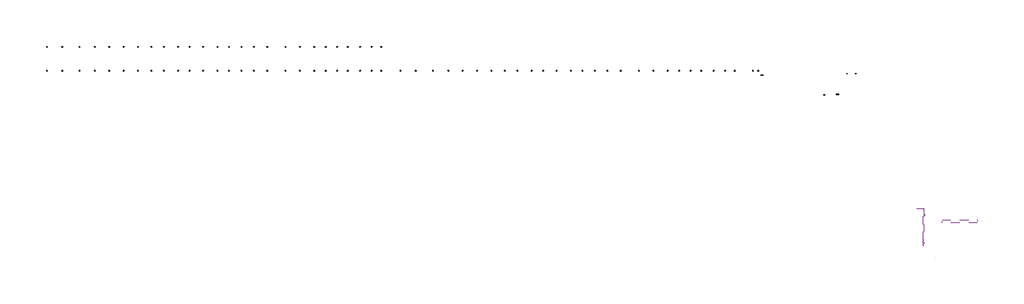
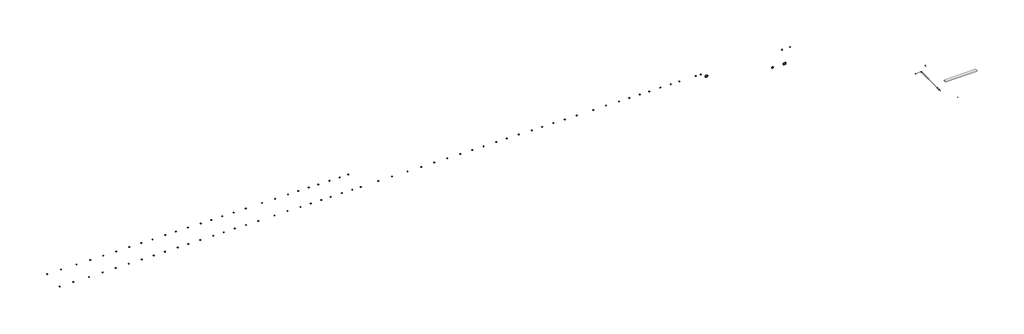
# One storey, incomplete: 86 alarms, 9 duct fittings, 7 duct segments, 1 cable carrier segment.
"""IFC4 building model written with IfcOpenShell, lengths in millimetres."""

from ifc_helpers import new_model, si_unit, frame, origin, place, context, project, spatial, polyline, outline, extrude, transform, mapped, element, save
from components import alarm_d060e439, alarm_7a4e420f, alarm_f305d9a8, alarm_74580a2a, alarm_8f189408, alarm_7e1c0db4, alarm_fe193bee, alarm_039fa333, alarm_379a8da4, alarm_1ad1898b, alarm_17b44d74, alarm_83ac3c54, alarm_bf9d1f58, duct_fitting_348c0719, duct_fitting_4cc1a555, duct_fitting_4e3f77ef, duct_fitting_c61af963, duct_fitting_fa248a7e

model = new_model("IFC4")

# Units and contexts
model_context = context("Model", 3, world=origin())
ifc_project = project(units=[si_unit("LENGTHUNIT", "METRE", prefix="MILLI")], contexts=[model_context])

# Site, building, storey
site = spatial("IfcSite", under=ifc_project)
building = spatial("IfcBuilding", under=site)
storey = spatial("IfcBuildingStorey", under=building, Name="Уровень 1", Elevation=0.0)

# Alarms
placement = place(None, origin())
alarm_shape = alarm_d060e439(model_context)
alarm_2_shape = alarm_7a4e420f(model_context)
alarm_3_shape = alarm_f305d9a8(model_context)
alarm_4_shape = alarm_74580a2a(model_context)
element("IfcAlarm", 1, ObjectType="БИС-Р_тип модель : БИС-Р", at=placement, inside=storey, context=model_context, shape_type="MappedRepresentation", body=[
    mapped(alarm_shape, transform((-11012.4807364, 14714.5739629, 0.0), x_axis=(1.0, 0.0, 0.0), y_axis=(0.0, 1.0, 0.0), z_axis=(0.0, 0.0, 1.0))),
    mapped(alarm_2_shape, transform((-11012.4807364, 14714.5739629, 0.0), x_axis=(1.0, 0.0, 0.0), y_axis=(0.0, 1.0, 0.0), z_axis=(0.0, 0.0, 1.0))),
    mapped(alarm_3_shape, transform((-11012.4807364, 14714.5739629, 0.0), x_axis=(1.0, 0.0, 0.0), y_axis=(0.0, 1.0, 0.0), z_axis=(0.0, 0.0, 1.0))),
    mapped(alarm_4_shape, transform((-11012.4807364, 14714.5739629, 0.0), x_axis=(1.0, 0.0, 0.0), y_axis=(0.0, 1.0, 0.0), z_axis=(0.0, 0.0, 1.0))),
])
alarm_5_shape = alarm_8f189408(model_context)
element("IfcAlarm", 2, ObjectType="АОПИштора_ тип модель : АОПИ штора", at=placement, inside=storey, context=model_context, shape_type="MappedRepresentation", body=[
    mapped(alarm_5_shape, transform((-2152.7435471, 14887.9617615, 0.0), x_axis=(1.0, 0.0, 0.0), y_axis=(0.0, 1.0, 0.0), z_axis=(0.0, 0.0, 1.0))),
])
alarm_6_shape = alarm_7e1c0db4(model_context)
element("IfcAlarm", 3, ObjectType="АОПИ_ тип модель : АОПИ", at=placement, inside=storey, context=model_context, shape_type="MappedRepresentation", body=[
    mapped(alarm_6_shape, transform((-1238.1159341, 14887.9617615, 0.0), x_axis=(1.0, 0.0, 0.0), y_axis=(0.0, 1.0, 0.0), z_axis=(0.0, 0.0, 1.0))),
])
alarm_7_shape = alarm_fe193bee(model_context)
element("IfcAlarm", 4, ObjectType="АЗДПИ АТИ_база извещателя_тип модель на грани : АЗДПИ АТИ_база извещателя_тип модель на грани", at=placement, inside=storey, context=model_context, shape_type="MappedRepresentation", body=[
    mapped(alarm_7_shape, transform((-11968.1978357, 15172.3724621, 0.0), x_axis=(1.0, 0.0, 0.0), y_axis=(0.0, -1.0, 0.0), z_axis=(0.0, 0.0, -1.0))),
])
element("IfcAlarm", 5, ObjectType="АЗДПИ АТИ_база извещателя_тип модель на грани : АЗДПИ АТИ_база извещателя_тип модель на грани", at=placement, inside=storey, context=model_context, shape_type="MappedRepresentation", body=[
    mapped(alarm_7_shape, transform((-13868.1978357, 15172.3724621, 0.0), x_axis=(1.0, 0.0, 0.0), y_axis=(0.0, -1.0, 0.0), z_axis=(0.0, 0.0, -1.0))),
])
element("IfcAlarm", 6, ObjectType="АЗДПИ АТИ_база извещателя_тип модель на грани : АЗДПИ АТИ_база извещателя_тип модель на грани", at=placement, inside=storey, context=model_context, shape_type="MappedRepresentation", body=[
    mapped(alarm_7_shape, transform((-14868.1978357, 15172.3724621, 0.0), x_axis=(1.0, 0.0, 0.0), y_axis=(0.0, -1.0, 0.0), z_axis=(0.0, 0.0, -1.0))),
])
element("IfcAlarm", 7, ObjectType="АЗДПИ АТИ_база извещателя_тип модель на грани : АЗДПИ АТИ_база извещателя_тип модель на грани", at=placement, inside=storey, context=model_context, shape_type="MappedRepresentation", body=[
    mapped(alarm_7_shape, transform((-16068.1978357, 15172.3724621, 0.0), x_axis=(1.0, 0.0, 0.0), y_axis=(0.0, -1.0, 0.0), z_axis=(0.0, 0.0, -1.0))),
])
element("IfcAlarm", 8, ObjectType="АЗДПИ АТИ_база извещателя_тип модель на грани : АЗДПИ АТИ_база извещателя_тип модель на грани", at=placement, inside=storey, context=model_context, shape_type="MappedRepresentation", body=[
    mapped(alarm_7_shape, transform((-17368.1978357, 15172.3724621, 0.0), x_axis=(1.0, 0.0, 0.0), y_axis=(0.0, -1.0, 0.0), z_axis=(0.0, 0.0, -1.0))),
])
element("IfcAlarm", 9, ObjectType="АЗДПИ АТИ_база извещателя_тип модель на грани : АЗДПИ АТИ_база извещателя_тип модель на грани", at=placement, inside=storey, context=model_context, shape_type="MappedRepresentation", body=[
    mapped(alarm_7_shape, transform((-18468.1978357, 15172.3724621, 0.0), x_axis=(1.0, 0.0, 0.0), y_axis=(0.0, -1.0, 0.0), z_axis=(0.0, 0.0, -1.0))),
])
element("IfcAlarm", 10, ObjectType="АЗДПИ АТИ_база извещателя_тип модель на грани : АЗДПИ АТИ_база извещателя_тип модель на грани", at=placement, inside=storey, context=model_context, shape_type="MappedRepresentation", body=[
    mapped(alarm_7_shape, transform((-19668.1978357, 15172.3724621, 0.0), x_axis=(1.0, 0.0, 0.0), y_axis=(0.0, -1.0, 0.0), z_axis=(0.0, 0.0, -1.0))),
])
element("IfcAlarm", 11, ObjectType="АЗДПИ АТИ_база извещателя_тип модель на грани : АЗДПИ АТИ_база извещателя_тип модель на грани", at=placement, inside=storey, context=model_context, shape_type="MappedRepresentation", body=[
    mapped(alarm_7_shape, transform((-20868.1978357, 15172.3724621, 0.0), x_axis=(1.0, 0.0, 0.0), y_axis=(0.0, -1.0, 0.0), z_axis=(0.0, 0.0, -1.0))),
])
element("IfcAlarm", 12, ObjectType="АЗДПИ АТИ_база извещателя_тип модель на грани : АЗДПИ АТИ_база извещателя_тип модель на грани", at=placement, inside=storey, context=model_context, shape_type="MappedRepresentation", body=[
    mapped(alarm_7_shape, transform((-22368.1978357, 15172.3724621, 0.0), x_axis=(1.0, 0.0, 0.0), y_axis=(0.0, -1.0, 0.0), z_axis=(0.0, 0.0, -1.0))),
])
element("IfcAlarm", 13, ObjectType="АЗДПИ АТИ_база извещателя_тип модель на грани : АЗДПИ АТИ_база извещателя_тип модель на грани", at=placement, inside=storey, context=model_context, shape_type="MappedRepresentation", body=[
    mapped(alarm_7_shape, transform((-23868.1978357, 15172.3724621, 0.0), x_axis=(1.0, 0.0, 0.0), y_axis=(0.0, -1.0, 0.0), z_axis=(0.0, 0.0, -1.0))),
])
element("IfcAlarm", 14, ObjectType="АЗДПИ АТИ_база извещателя_тип модель на грани : АЗДПИ АТИ_база извещателя_тип модель на грани", at=placement, inside=storey, context=model_context, shape_type="MappedRepresentation", body=[
    mapped(alarm_7_shape, transform((-25768.1978357, 15172.3724621, 0.0), x_axis=(1.0, 0.0, 0.0), y_axis=(0.0, -1.0, 0.0), z_axis=(0.0, 0.0, -1.0))),
])
element("IfcAlarm", 15, ObjectType="АЗДПИ АТИ_база извещателя_тип модель на грани : АЗДПИ АТИ_база извещателя_тип модель на грани", at=placement, inside=storey, context=model_context, shape_type="MappedRepresentation", body=[
    mapped(alarm_7_shape, transform((-27168.1978357, 15172.3724621, 0.0), x_axis=(1.0, 0.0, 0.0), y_axis=(0.0, -1.0, 0.0), z_axis=(0.0, 0.0, -1.0))),
])
element("IfcAlarm", 16, ObjectType="АЗДПИ АТИ_база извещателя_тип модель на грани : АЗДПИ АТИ_база извещателя_тип модель на грани", at=placement, inside=storey, context=model_context, shape_type="MappedRepresentation", body=[
    mapped(alarm_7_shape, transform((-28468.1978357, 15172.3724621, 0.0), x_axis=(1.0, 0.0, 0.0), y_axis=(0.0, -1.0, 0.0), z_axis=(0.0, 0.0, -1.0))),
])
element("IfcAlarm", 17, ObjectType="АЗДПИ АТИ_база извещателя_тип модель на грани : АЗДПИ АТИ_база извещателя_тип модель на грани", at=placement, inside=storey, context=model_context, shape_type="MappedRepresentation", body=[
    mapped(alarm_7_shape, transform((-29768.1978357, 15172.3724621, 0.0), x_axis=(1.0, 0.0, 0.0), y_axis=(0.0, -1.0, 0.0), z_axis=(0.0, 0.0, -1.0))),
])
element("IfcAlarm", 18, ObjectType="АЗДПИ АТИ_база извещателя_тип модель на грани : АЗДПИ АТИ_база извещателя_тип модель на грани", at=placement, inside=storey, context=model_context, shape_type="MappedRepresentation", body=[
    mapped(alarm_7_shape, transform((-30968.1978357, 15172.3724621, 0.0), x_axis=(1.0, 0.0, 0.0), y_axis=(0.0, -1.0, 0.0), z_axis=(0.0, 0.0, -1.0))),
])
element("IfcAlarm", 19, ObjectType="АЗДПИ АТИ_база извещателя_тип модель на грани : АЗДПИ АТИ_база извещателя_тип модель на грани", at=placement, inside=storey, context=model_context, shape_type="MappedRepresentation", body=[
    mapped(alarm_7_shape, transform((-32468.1978357, 15172.3724621, 0.0), x_axis=(1.0, 0.0, 0.0), y_axis=(0.0, -1.0, 0.0), z_axis=(0.0, 0.0, -1.0))),
])
element("IfcAlarm", 20, ObjectType="АЗДПИ АТИ_база извещателя_тип модель на грани : АЗДПИ АТИ_база извещателя_тип модель на грани", at=placement, inside=storey, context=model_context, shape_type="MappedRepresentation", body=[
    mapped(alarm_7_shape, transform((-33868.1978357, 15172.3724621, 0.0), x_axis=(1.0, 0.0, 0.0), y_axis=(0.0, -1.0, 0.0), z_axis=(0.0, 0.0, -1.0))),
])
element("IfcAlarm", 21, ObjectType="АЗДПИ АТИ_база извещателя_тип модель на грани : АЗДПИ АТИ_база извещателя_тип модель на грани", at=placement, inside=storey, context=model_context, shape_type="MappedRepresentation", body=[
    mapped(alarm_7_shape, transform((-35068.1978357, 15172.3724621, 0.0), x_axis=(1.0, 0.0, 0.0), y_axis=(0.0, -1.0, 0.0), z_axis=(0.0, 0.0, -1.0))),
])
element("IfcAlarm", 22, ObjectType="АЗДПИ АТИ_база извещателя_тип модель на грани : АЗДПИ АТИ_база извещателя_тип модель на грани", at=placement, inside=storey, context=model_context, shape_type="MappedRepresentation", body=[
    mapped(alarm_7_shape, transform((-36568.1978357, 15172.3724621, 0.0), x_axis=(1.0, 0.0, 0.0), y_axis=(0.0, -1.0, 0.0), z_axis=(0.0, 0.0, -1.0))),
])
element("IfcAlarm", 23, ObjectType="АЗДПИ АТИ_база извещателя_тип модель на грани : АЗДПИ АТИ_база извещателя_тип модель на грани", at=placement, inside=storey, context=model_context, shape_type="MappedRepresentation", body=[
    mapped(alarm_7_shape, transform((-37868.1978357, 15172.3724621, 0.0), x_axis=(1.0, 0.0, 0.0), y_axis=(0.0, -1.0, 0.0), z_axis=(0.0, 0.0, -1.0))),
])
element("IfcAlarm", 24, ObjectType="АЗДПИ АТИ_база извещателя_тип модель на грани : АЗДПИ АТИ_база извещателя_тип модель на грани", at=placement, inside=storey, context=model_context, shape_type="MappedRepresentation", body=[
    mapped(alarm_7_shape, transform((-39268.1978357, 15172.3724621, 0.0), x_axis=(1.0, 0.0, 0.0), y_axis=(0.0, -1.0, 0.0), z_axis=(0.0, 0.0, -1.0))),
])
element("IfcAlarm", 25, ObjectType="АЗДПИ АТИ_база извещателя_тип модель на грани : АЗДПИ АТИ_база извещателя_тип модель на грани", at=placement, inside=storey, context=model_context, shape_type="MappedRepresentation", body=[
    mapped(alarm_7_shape, transform((-40768.1978357, 15172.3724621, 0.0), x_axis=(1.0, 0.0, 0.0), y_axis=(0.0, -1.0, 0.0), z_axis=(0.0, 0.0, -1.0))),
])
element("IfcAlarm", 26, ObjectType="АЗДПИ АТИ_база извещателя_тип модель на грани : АЗДПИ АТИ_база извещателя_тип модель на грани", at=placement, inside=storey, context=model_context, shape_type="MappedRepresentation", body=[
    mapped(alarm_7_shape, transform((-42268.1978357, 15172.3724621, 0.0), x_axis=(1.0, 0.0, 0.0), y_axis=(0.0, -1.0, 0.0), z_axis=(0.0, 0.0, -1.0))),
])
element("IfcAlarm", 27, ObjectType="АЗДПИ АТИ_база извещателя_тип модель на грани : АЗДПИ АТИ_база извещателя_тип модель на грани", at=placement, inside=storey, context=model_context, shape_type="MappedRepresentation", body=[
    mapped(alarm_7_shape, transform((-43768.1978357, 15172.3724621, 0.0), x_axis=(1.0, 0.0, 0.0), y_axis=(0.0, -1.0, 0.0), z_axis=(0.0, 0.0, -1.0))),
])
element("IfcAlarm", 28, ObjectType="АЗДПИ АТИ_база извещателя_тип модель на грани : АЗДПИ АТИ_база извещателя_тип модель на грани", at=placement, inside=storey, context=model_context, shape_type="MappedRepresentation", body=[
    mapped(alarm_7_shape, transform((-45368.1978357, 15172.3724621, 0.0), x_axis=(1.0, 0.0, 0.0), y_axis=(0.0, -1.0, 0.0), z_axis=(0.0, 0.0, -1.0))),
])
element("IfcAlarm", 29, ObjectType="АЗДПИ АТИ_база извещателя_тип модель на грани : АЗДПИ АТИ_база извещателя_тип модель на грани", at=placement, inside=storey, context=model_context, shape_type="MappedRepresentation", body=[
    mapped(alarm_7_shape, transform((-47168.1978357, 15172.3724621, 0.0), x_axis=(1.0, 0.0, 0.0), y_axis=(0.0, -1.0, 0.0), z_axis=(0.0, 0.0, -1.0))),
])
element("IfcAlarm", 30, ObjectType="АЗДПИ АТИ_база извещателя_тип модель на грани : АЗДПИ АТИ_база извещателя_тип модель на грани", at=placement, inside=storey, context=model_context, shape_type="MappedRepresentation", body=[
    mapped(alarm_7_shape, transform((-48768.1978357, 15172.3724621, 0.0), x_axis=(1.0, 0.0, 0.0), y_axis=(0.0, -1.0, 0.0), z_axis=(0.0, 0.0, -1.0))),
])
element("IfcAlarm", 31, ObjectType="АЗДПИ АТИ_база извещателя_тип модель на грани : АЗДПИ АТИ_база извещателя_тип модель на грани", at=placement, inside=storey, context=model_context, shape_type="MappedRepresentation", body=[
    mapped(alarm_7_shape, transform((-50768.1978357, 15172.3724621, 0.0), x_axis=(1.0, 0.0, 0.0), y_axis=(0.0, -1.0, 0.0), z_axis=(0.0, 0.0, -1.0))),
])
element("IfcAlarm", 32, ObjectType="АЗДПИ АТИ_база извещателя_тип модель на грани : АЗДПИ АТИ_база извещателя_тип модель на грани", at=placement, inside=storey, context=model_context, shape_type="MappedRepresentation", body=[
    mapped(alarm_7_shape, transform((-51768.1978357, 15172.3724621, 0.0), x_axis=(1.0, 0.0, 0.0), y_axis=(0.0, -1.0, 0.0), z_axis=(0.0, 0.0, -1.0))),
])
element("IfcAlarm", 33, ObjectType="АЗДПИ АТИ_база извещателя_тип модель на грани : АЗДПИ АТИ_база извещателя_тип модель на грани", at=placement, inside=storey, context=model_context, shape_type="MappedRepresentation", body=[
    mapped(alarm_7_shape, transform((-52968.1978357, 15172.3724621, 0.0), x_axis=(1.0, 0.0, 0.0), y_axis=(0.0, -1.0, 0.0), z_axis=(0.0, 0.0, -1.0))),
])
element("IfcAlarm", 34, ObjectType="АЗДПИ АТИ_база извещателя_тип модель на грани : АЗДПИ АТИ_база извещателя_тип модель на грани", at=placement, inside=storey, context=model_context, shape_type="MappedRepresentation", body=[
    mapped(alarm_7_shape, transform((-54268.1978357, 15172.3724621, 0.0), x_axis=(1.0, 0.0, 0.0), y_axis=(0.0, -1.0, 0.0), z_axis=(0.0, 0.0, -1.0))),
])
element("IfcAlarm", 35, ObjectType="АЗДПИ АТИ_база извещателя_тип модель на грани : АЗДПИ АТИ_база извещателя_тип модель на грани", at=placement, inside=storey, context=model_context, shape_type="MappedRepresentation", body=[
    mapped(alarm_7_shape, transform((-55368.1978357, 15172.3724621, 0.0), x_axis=(1.0, 0.0, 0.0), y_axis=(0.0, -1.0, 0.0), z_axis=(0.0, 0.0, -1.0))),
])
element("IfcAlarm", 36, ObjectType="АЗДПИ АТИ_база извещателя_тип модель на грани : АЗДПИ АТИ_база извещателя_тип модель на грани", at=placement, inside=storey, context=model_context, shape_type="MappedRepresentation", body=[
    mapped(alarm_7_shape, transform((-56568.1978357, 15172.3724621, 0.0), x_axis=(1.0, 0.0, 0.0), y_axis=(0.0, -1.0, 0.0), z_axis=(0.0, 0.0, -1.0))),
])
element("IfcAlarm", 37, ObjectType="АЗДПИ АТИ_база извещателя_тип модель на грани : АЗДПИ АТИ_база извещателя_тип модель на грани", at=placement, inside=storey, context=model_context, shape_type="MappedRepresentation", body=[
    mapped(alarm_7_shape, transform((-57768.1978357, 15172.3724621, 0.0), x_axis=(1.0, 0.0, 0.0), y_axis=(0.0, -1.0, 0.0), z_axis=(0.0, 0.0, -1.0))),
])
element("IfcAlarm", 38, ObjectType="АЗДПИ АТИ_база извещателя_тип модель на грани : АЗДПИ АТИ_база извещателя_тип модель на грани", at=placement, inside=storey, context=model_context, shape_type="MappedRepresentation", body=[
    mapped(alarm_7_shape, transform((-59268.1978357, 15172.3724621, 0.0), x_axis=(1.0, 0.0, 0.0), y_axis=(0.0, -1.0, 0.0), z_axis=(0.0, 0.0, -1.0))),
])
element("IfcAlarm", 39, ObjectType="АЗДПИ АТИ_база извещателя_тип модель на грани : АЗДПИ АТИ_база извещателя_тип модель на грани", at=placement, inside=storey, context=model_context, shape_type="MappedRepresentation", body=[
    mapped(alarm_7_shape, transform((-60768.1978357, 15172.3724621, 0.0), x_axis=(1.0, 0.0, 0.0), y_axis=(0.0, -1.0, 0.0), z_axis=(0.0, 0.0, -1.0))),
])
element("IfcAlarm", 40, ObjectType="АЗДПИ АТИ_база извещателя_тип модель на грани : АЗДПИ АТИ_база извещателя_тип модель на грани", at=placement, inside=storey, context=model_context, shape_type="MappedRepresentation", body=[
    mapped(alarm_7_shape, transform((-62668.1978357, 15172.3724621, 0.0), x_axis=(1.0, 0.0, 0.0), y_axis=(0.0, -1.0, 0.0), z_axis=(0.0, 0.0, -1.0))),
])
element("IfcAlarm", 41, ObjectType="АЗДПИ АТИ_база извещателя_тип модель на грани : АЗДПИ АТИ_база извещателя_тип модель на грани", at=placement, inside=storey, context=model_context, shape_type="MappedRepresentation", body=[
    mapped(alarm_7_shape, transform((-64068.1978357, 15172.3724621, 0.0), x_axis=(1.0, 0.0, 0.0), y_axis=(0.0, -1.0, 0.0), z_axis=(0.0, 0.0, -1.0))),
])
element("IfcAlarm", 42, ObjectType="АЗДПИ АТИ_база извещателя_тип модель на грани : АЗДПИ АТИ_база извещателя_тип модель на грани", at=placement, inside=storey, context=model_context, shape_type="MappedRepresentation", body=[
    mapped(alarm_7_shape, transform((-65368.1978357, 15172.3724621, 0.0), x_axis=(1.0, 0.0, 0.0), y_axis=(0.0, -1.0, 0.0), z_axis=(0.0, 0.0, -1.0))),
])
element("IfcAlarm", 43, ObjectType="АЗДПИ АТИ_база извещателя_тип модель на грани : АЗДПИ АТИ_база извещателя_тип модель на грани", at=placement, inside=storey, context=model_context, shape_type="MappedRepresentation", body=[
    mapped(alarm_7_shape, transform((-66668.1978357, 15172.3724621, 0.0), x_axis=(1.0, 0.0, 0.0), y_axis=(0.0, -1.0, 0.0), z_axis=(0.0, 0.0, -1.0))),
])
element("IfcAlarm", 44, ObjectType="АЗДПИ АТИ_база извещателя_тип модель на грани : АЗДПИ АТИ_база извещателя_тип модель на грани", at=placement, inside=storey, context=model_context, shape_type="MappedRepresentation", body=[
    mapped(alarm_7_shape, transform((-67868.1978357, 15172.3724621, 0.0), x_axis=(1.0, 0.0, 0.0), y_axis=(0.0, -1.0, 0.0), z_axis=(0.0, 0.0, -1.0))),
])
element("IfcAlarm", 45, ObjectType="АЗДПИ АТИ_база извещателя_тип модель на грани : АЗДПИ АТИ_база извещателя_тип модель на грани", at=placement, inside=storey, context=model_context, shape_type="MappedRepresentation", body=[
    mapped(alarm_7_shape, transform((-69368.1978357, 15172.3724621, 0.0), x_axis=(1.0, 0.0, 0.0), y_axis=(0.0, -1.0, 0.0), z_axis=(0.0, 0.0, -1.0))),
])
element("IfcAlarm", 46, ObjectType="АЗДПИ АТИ_база извещателя_тип модель на грани : АЗДПИ АТИ_база извещателя_тип модель на грани", at=placement, inside=storey, context=model_context, shape_type="MappedRepresentation", body=[
    mapped(alarm_7_shape, transform((-70768.1978357, 15172.3724621, 0.0), x_axis=(1.0, 0.0, 0.0), y_axis=(0.0, -1.0, 0.0), z_axis=(0.0, 0.0, -1.0))),
])
element("IfcAlarm", 47, ObjectType="АЗДПИ АТИ_база извещателя_тип модель на грани : АЗДПИ АТИ_база извещателя_тип модель на грани", at=placement, inside=storey, context=model_context, shape_type="MappedRepresentation", body=[
    mapped(alarm_7_shape, transform((-71968.1978357, 15172.3724621, 0.0), x_axis=(1.0, 0.0, 0.0), y_axis=(0.0, -1.0, 0.0), z_axis=(0.0, 0.0, -1.0))),
])
element("IfcAlarm", 48, ObjectType="АЗДПИ АТИ_база извещателя_тип модель на грани : АЗДПИ АТИ_база извещателя_тип модель на грани", at=placement, inside=storey, context=model_context, shape_type="MappedRepresentation", body=[
    mapped(alarm_7_shape, transform((-73468.1978357, 15172.3724621, 0.0), x_axis=(1.0, 0.0, 0.0), y_axis=(0.0, -1.0, 0.0), z_axis=(0.0, 0.0, -1.0))),
])
element("IfcAlarm", 49, ObjectType="АЗДПИ АТИ_база извещателя_тип модель на грани : АЗДПИ АТИ_база извещателя_тип модель на грани", at=placement, inside=storey, context=model_context, shape_type="MappedRepresentation", body=[
    mapped(alarm_7_shape, transform((-74768.1978357, 15172.3724621, 0.0), x_axis=(1.0, 0.0, 0.0), y_axis=(0.0, -1.0, 0.0), z_axis=(0.0, 0.0, -1.0))),
])
element("IfcAlarm", 50, ObjectType="АЗДПИ АТИ_база извещателя_тип модель на грани : АЗДПИ АТИ_база извещателя_тип модель на грани", at=placement, inside=storey, context=model_context, shape_type="MappedRepresentation", body=[
    mapped(alarm_7_shape, transform((-76168.1978357, 15172.3724621, 0.0), x_axis=(1.0, 0.0, 0.0), y_axis=(0.0, -1.0, 0.0), z_axis=(0.0, 0.0, -1.0))),
])
element("IfcAlarm", 51, ObjectType="АЗДПИ АТИ_база извещателя_тип модель на грани : АЗДПИ АТИ_база извещателя_тип модель на грани", at=placement, inside=storey, context=model_context, shape_type="MappedRepresentation", body=[
    mapped(alarm_7_shape, transform((-77668.1978357, 15172.3724621, 0.0), x_axis=(1.0, 0.0, 0.0), y_axis=(0.0, -1.0, 0.0), z_axis=(0.0, 0.0, -1.0))),
])
element("IfcAlarm", 52, ObjectType="АЗДПИ АТИ_база извещателя_тип модель на грани : АЗДПИ АТИ_база извещателя_тип модель на грани", at=placement, inside=storey, context=model_context, shape_type="MappedRepresentation", body=[
    mapped(alarm_7_shape, transform((-79168.1978357, 15172.3724621, 0.0), x_axis=(1.0, 0.0, 0.0), y_axis=(0.0, -1.0, 0.0), z_axis=(0.0, 0.0, -1.0))),
])
element("IfcAlarm", 53, ObjectType="АЗДПИ АТИ_база извещателя_тип модель на грани : АЗДПИ АТИ_база извещателя_тип модель на грани", at=placement, inside=storey, context=model_context, shape_type="MappedRepresentation", body=[
    mapped(alarm_7_shape, transform((-80668.1978357, 15172.3724621, 0.0), x_axis=(1.0, 0.0, 0.0), y_axis=(0.0, -1.0, 0.0), z_axis=(0.0, 0.0, -1.0))),
])
element("IfcAlarm", 54, ObjectType="АЗДПИ АТИ_база извещателя_тип модель на грани : АЗДПИ АТИ_база извещателя_тип модель на грани", at=placement, inside=storey, context=model_context, shape_type="MappedRepresentation", body=[
    mapped(alarm_7_shape, transform((-82268.1978357, 15172.3724621, 0.0), x_axis=(1.0, 0.0, 0.0), y_axis=(0.0, -1.0, 0.0), z_axis=(0.0, 0.0, -1.0))),
])
element("IfcAlarm", 55, ObjectType="АЗДПИ АТИ_база извещателя_тип модель на грани : АЗДПИ АТИ_база извещателя_тип модель на грани", at=placement, inside=storey, context=model_context, shape_type="MappedRepresentation", body=[
    mapped(alarm_7_shape, transform((-84068.1978357, 15172.3724621, 0.0), x_axis=(1.0, 0.0, 0.0), y_axis=(0.0, -1.0, 0.0), z_axis=(0.0, 0.0, -1.0))),
])
element("IfcAlarm", 56, ObjectType="АЗДПИ АТИ_база извещателя_тип модель на грани : АЗДПИ АТИ_база извещателя_тип модель на грани", at=placement, inside=storey, context=model_context, shape_type="MappedRepresentation", body=[
    mapped(alarm_7_shape, transform((-85668.1978357, 15172.3724621, 0.0), x_axis=(1.0, 0.0, 0.0), y_axis=(0.0, -1.0, 0.0), z_axis=(0.0, 0.0, -1.0))),
])
element("IfcAlarm", 57, ObjectType="АЗДПИ АТИ_база извещателя_тип модель на грани : АЗДПИ АТИ_база извещателя_тип модель на грани", at=placement, inside=storey, context=model_context, shape_type="MappedRepresentation", body=[
    mapped(alarm_7_shape, transform((-50768.1978357, 17672.3724621, 0.0), x_axis=(1.0, 0.0, 0.0), y_axis=(0.0, -1.0, 0.0), z_axis=(0.0, 0.0, -1.0))),
])
element("IfcAlarm", 58, ObjectType="АЗДПИ АТИ_база извещателя_тип модель на грани : АЗДПИ АТИ_база извещателя_тип модель на грани", at=placement, inside=storey, context=model_context, shape_type="MappedRepresentation", body=[
    mapped(alarm_7_shape, transform((-51768.1978357, 17672.3724621, 0.0), x_axis=(1.0, 0.0, 0.0), y_axis=(0.0, -1.0, 0.0), z_axis=(0.0, 0.0, -1.0))),
])
element("IfcAlarm", 59, ObjectType="АЗДПИ АТИ_база извещателя_тип модель на грани : АЗДПИ АТИ_база извещателя_тип модель на грани", at=placement, inside=storey, context=model_context, shape_type="MappedRepresentation", body=[
    mapped(alarm_7_shape, transform((-52968.1978357, 17672.3724621, 0.0), x_axis=(1.0, 0.0, 0.0), y_axis=(0.0, -1.0, 0.0), z_axis=(0.0, 0.0, -1.0))),
])
element("IfcAlarm", 60, ObjectType="АЗДПИ АТИ_база извещателя_тип модель на грани : АЗДПИ АТИ_база извещателя_тип модель на грани", at=placement, inside=storey, context=model_context, shape_type="MappedRepresentation", body=[
    mapped(alarm_7_shape, transform((-54268.1978357, 17672.3724621, 0.0), x_axis=(1.0, 0.0, 0.0), y_axis=(0.0, -1.0, 0.0), z_axis=(0.0, 0.0, -1.0))),
])
element("IfcAlarm", 61, ObjectType="АЗДПИ АТИ_база извещателя_тип модель на грани : АЗДПИ АТИ_база извещателя_тип модель на грани", at=placement, inside=storey, context=model_context, shape_type="MappedRepresentation", body=[
    mapped(alarm_7_shape, transform((-55368.1978357, 17672.3724621, 0.0), x_axis=(1.0, 0.0, 0.0), y_axis=(0.0, -1.0, 0.0), z_axis=(0.0, 0.0, -1.0))),
])
element("IfcAlarm", 62, ObjectType="АЗДПИ АТИ_база извещателя_тип модель на грани : АЗДПИ АТИ_база извещателя_тип модель на грани", at=placement, inside=storey, context=model_context, shape_type="MappedRepresentation", body=[
    mapped(alarm_7_shape, transform((-56568.1978357, 17672.3724621, 0.0), x_axis=(1.0, 0.0, 0.0), y_axis=(0.0, -1.0, 0.0), z_axis=(0.0, 0.0, -1.0))),
])
element("IfcAlarm", 63, ObjectType="АЗДПИ АТИ_база извещателя_тип модель на грани : АЗДПИ АТИ_база извещателя_тип модель на грани", at=placement, inside=storey, context=model_context, shape_type="MappedRepresentation", body=[
    mapped(alarm_7_shape, transform((-57768.1978357, 17672.3724621, 0.0), x_axis=(1.0, 0.0, 0.0), y_axis=(0.0, -1.0, 0.0), z_axis=(0.0, 0.0, -1.0))),
])
element("IfcAlarm", 64, ObjectType="АЗДПИ АТИ_база извещателя_тип модель на грани : АЗДПИ АТИ_база извещателя_тип модель на грани", at=placement, inside=storey, context=model_context, shape_type="MappedRepresentation", body=[
    mapped(alarm_7_shape, transform((-59268.1978357, 17672.3724621, 0.0), x_axis=(1.0, 0.0, 0.0), y_axis=(0.0, -1.0, 0.0), z_axis=(0.0, 0.0, -1.0))),
])
element("IfcAlarm", 65, ObjectType="АЗДПИ АТИ_база извещателя_тип модель на грани : АЗДПИ АТИ_база извещателя_тип модель на грани", at=placement, inside=storey, context=model_context, shape_type="MappedRepresentation", body=[
    mapped(alarm_7_shape, transform((-60768.1978357, 17672.3724621, 0.0), x_axis=(1.0, 0.0, 0.0), y_axis=(0.0, -1.0, 0.0), z_axis=(0.0, 0.0, -1.0))),
])
element("IfcAlarm", 66, ObjectType="АЗДПИ АТИ_база извещателя_тип модель на грани : АЗДПИ АТИ_база извещателя_тип модель на грани", at=placement, inside=storey, context=model_context, shape_type="MappedRepresentation", body=[
    mapped(alarm_7_shape, transform((-62668.1978357, 17672.3724621, 0.0), x_axis=(1.0, 0.0, 0.0), y_axis=(0.0, -1.0, 0.0), z_axis=(0.0, 0.0, -1.0))),
])
element("IfcAlarm", 67, ObjectType="АЗДПИ АТИ_база извещателя_тип модель на грани : АЗДПИ АТИ_база извещателя_тип модель на грани", at=placement, inside=storey, context=model_context, shape_type="MappedRepresentation", body=[
    mapped(alarm_7_shape, transform((-64068.1978357, 17672.3724621, 0.0), x_axis=(1.0, 0.0, 0.0), y_axis=(0.0, -1.0, 0.0), z_axis=(0.0, 0.0, -1.0))),
])
element("IfcAlarm", 68, ObjectType="АЗДПИ АТИ_база извещателя_тип модель на грани : АЗДПИ АТИ_база извещателя_тип модель на грани", at=placement, inside=storey, context=model_context, shape_type="MappedRepresentation", body=[
    mapped(alarm_7_shape, transform((-65368.1978357, 17672.3724621, 0.0), x_axis=(1.0, 0.0, 0.0), y_axis=(0.0, -1.0, 0.0), z_axis=(0.0, 0.0, -1.0))),
])
element("IfcAlarm", 69, ObjectType="АЗДПИ АТИ_база извещателя_тип модель на грани : АЗДПИ АТИ_база извещателя_тип модель на грани", at=placement, inside=storey, context=model_context, shape_type="MappedRepresentation", body=[
    mapped(alarm_7_shape, transform((-66668.1978357, 17672.3724621, 0.0), x_axis=(1.0, 0.0, 0.0), y_axis=(0.0, -1.0, 0.0), z_axis=(0.0, 0.0, -1.0))),
])
element("IfcAlarm", 70, ObjectType="АЗДПИ АТИ_база извещателя_тип модель на грани : АЗДПИ АТИ_база извещателя_тип модель на грани", at=placement, inside=storey, context=model_context, shape_type="MappedRepresentation", body=[
    mapped(alarm_7_shape, transform((-67868.1978357, 17672.3724621, 0.0), x_axis=(1.0, 0.0, 0.0), y_axis=(0.0, -1.0, 0.0), z_axis=(0.0, 0.0, -1.0))),
])
element("IfcAlarm", 71, ObjectType="АЗДПИ АТИ_база извещателя_тип модель на грани : АЗДПИ АТИ_база извещателя_тип модель на грани", at=placement, inside=storey, context=model_context, shape_type="MappedRepresentation", body=[
    mapped(alarm_7_shape, transform((-69368.1978357, 17672.3724621, 0.0), x_axis=(1.0, 0.0, 0.0), y_axis=(0.0, -1.0, 0.0), z_axis=(0.0, 0.0, -1.0))),
])
element("IfcAlarm", 72, ObjectType="АЗДПИ АТИ_база извещателя_тип модель на грани : АЗДПИ АТИ_база извещателя_тип модель на грани", at=placement, inside=storey, context=model_context, shape_type="MappedRepresentation", body=[
    mapped(alarm_7_shape, transform((-70768.1978357, 17672.3724621, 0.0), x_axis=(1.0, 0.0, 0.0), y_axis=(0.0, -1.0, 0.0), z_axis=(0.0, 0.0, -1.0))),
])
element("IfcAlarm", 73, ObjectType="АЗДПИ АТИ_база извещателя_тип модель на грани : АЗДПИ АТИ_база извещателя_тип модель на грани", at=placement, inside=storey, context=model_context, shape_type="MappedRepresentation", body=[
    mapped(alarm_7_shape, transform((-71968.1978357, 17672.3724621, 0.0), x_axis=(1.0, 0.0, 0.0), y_axis=(0.0, -1.0, 0.0), z_axis=(0.0, 0.0, -1.0))),
])
element("IfcAlarm", 74, ObjectType="АЗДПИ АТИ_база извещателя_тип модель на грани : АЗДПИ АТИ_база извещателя_тип модель на грани", at=placement, inside=storey, context=model_context, shape_type="MappedRepresentation", body=[
    mapped(alarm_7_shape, transform((-73468.1978357, 17672.3724621, 0.0), x_axis=(1.0, 0.0, 0.0), y_axis=(0.0, -1.0, 0.0), z_axis=(0.0, 0.0, -1.0))),
])
element("IfcAlarm", 75, ObjectType="АЗДПИ АТИ_база извещателя_тип модель на грани : АЗДПИ АТИ_база извещателя_тип модель на грани", at=placement, inside=storey, context=model_context, shape_type="MappedRepresentation", body=[
    mapped(alarm_7_shape, transform((-74768.1978357, 17672.3724621, 0.0), x_axis=(1.0, 0.0, 0.0), y_axis=(0.0, -1.0, 0.0), z_axis=(0.0, 0.0, -1.0))),
])
element("IfcAlarm", 76, ObjectType="АЗДПИ АТИ_база извещателя_тип модель на грани : АЗДПИ АТИ_база извещателя_тип модель на грани", at=placement, inside=storey, context=model_context, shape_type="MappedRepresentation", body=[
    mapped(alarm_7_shape, transform((-76168.1978357, 17672.3724621, 0.0), x_axis=(1.0, 0.0, 0.0), y_axis=(0.0, -1.0, 0.0), z_axis=(0.0, 0.0, -1.0))),
])
element("IfcAlarm", 77, ObjectType="АЗДПИ АТИ_база извещателя_тип модель на грани : АЗДПИ АТИ_база извещателя_тип модель на грани", at=placement, inside=storey, context=model_context, shape_type="MappedRepresentation", body=[
    mapped(alarm_7_shape, transform((-77668.1978357, 17672.3724621, 0.0), x_axis=(1.0, 0.0, 0.0), y_axis=(0.0, -1.0, 0.0), z_axis=(0.0, 0.0, -1.0))),
])
element("IfcAlarm", 78, ObjectType="АЗДПИ АТИ_база извещателя_тип модель на грани : АЗДПИ АТИ_база извещателя_тип модель на грани", at=placement, inside=storey, context=model_context, shape_type="MappedRepresentation", body=[
    mapped(alarm_7_shape, transform((-79168.1978357, 17672.3724621, 0.0), x_axis=(1.0, 0.0, 0.0), y_axis=(0.0, -1.0, 0.0), z_axis=(0.0, 0.0, -1.0))),
])
element("IfcAlarm", 79, ObjectType="АЗДПИ АТИ_база извещателя_тип модель на грани : АЗДПИ АТИ_база извещателя_тип модель на грани", at=placement, inside=storey, context=model_context, shape_type="MappedRepresentation", body=[
    mapped(alarm_7_shape, transform((-80668.1978357, 17672.3724621, 0.0), x_axis=(1.0, 0.0, 0.0), y_axis=(0.0, -1.0, 0.0), z_axis=(0.0, 0.0, -1.0))),
])
element("IfcAlarm", 80, ObjectType="АЗДПИ АТИ_база извещателя_тип модель на грани : АЗДПИ АТИ_база извещателя_тип модель на грани", at=placement, inside=storey, context=model_context, shape_type="MappedRepresentation", body=[
    mapped(alarm_7_shape, transform((-82268.1978357, 17672.3724621, 0.0), x_axis=(1.0, 0.0, 0.0), y_axis=(0.0, -1.0, 0.0), z_axis=(0.0, 0.0, -1.0))),
])
element("IfcAlarm", 81, ObjectType="АЗДПИ АТИ_база извещателя_тип модель на грани : АЗДПИ АТИ_база извещателя_тип модель на грани", at=placement, inside=storey, context=model_context, shape_type="MappedRepresentation", body=[
    mapped(alarm_7_shape, transform((-84068.1978357, 17672.3724621, 0.0), x_axis=(1.0, 0.0, 0.0), y_axis=(0.0, -1.0, 0.0), z_axis=(0.0, 0.0, -1.0))),
])
element("IfcAlarm", 82, ObjectType="АЗДПИ АТИ_база извещателя_тип модель на грани : АЗДПИ АТИ_база извещателя_тип модель на грани", at=placement, inside=storey, context=model_context, shape_type="MappedRepresentation", body=[
    mapped(alarm_7_shape, transform((-85668.1978357, 17672.3724621, 0.0), x_axis=(1.0, 0.0, 0.0), y_axis=(0.0, -1.0, 0.0), z_axis=(0.0, 0.0, -1.0))),
])
alarm_8_shape = alarm_039fa333(model_context)
element("IfcAlarm", 83, ObjectType="А2ДПИ_база извещателя_тип модель на грани : А2ДПИ_база извещателя_тип модель на грани", at=placement, inside=storey, context=model_context, shape_type="MappedRepresentation", body=[
    mapped(alarm_8_shape, transform((-11412.4807364, 15172.3724621, 0.0), x_axis=(1.0, 0.0, 0.0), y_axis=(0.0, -1.0, 0.0), z_axis=(0.0, 0.0, -1.0))),
])
alarm_9_shape = alarm_379a8da4(model_context)
element("IfcAlarm", 84, ObjectType="ППО 01_тип модель : ППО 01", at=placement, inside=storey, context=model_context, shape_type="MappedRepresentation", body=[
    mapped(alarm_9_shape, transform((-4526.2235708, 12657.4354619, 0.0), x_axis=(1.0, 0.0, 0.0), y_axis=(0.0, 1.0, 0.0), z_axis=(0.0, 0.0, 1.0))),
])
alarm_10_shape = alarm_1ad1898b(model_context)
alarm_11_shape = alarm_17b44d74(model_context)
alarm_12_shape = alarm_83ac3c54(model_context)
element("IfcAlarm", 85, ObjectType="ППД 01_тип модель : ППД 01", at=placement, inside=storey, context=model_context, shape_type="MappedRepresentation", body=[
    mapped(alarm_10_shape, transform((-3125.0111951, 12724.2004503, 0.0), x_axis=(1.0, 0.0, 0.0), y_axis=(0.0, 1.0, 0.0), z_axis=(0.0, 0.0, 1.0))),
    mapped(alarm_11_shape, transform((-3125.0111951, 12724.2004503, 0.0), x_axis=(1.0, 0.0, 0.0), y_axis=(0.0, 1.0, 0.0), z_axis=(0.0, 0.0, 1.0))),
    mapped(alarm_12_shape, transform((-3125.0111951, 12724.2004503, 0.0), x_axis=(1.0, 0.0, 0.0), y_axis=(0.0, 1.0, 0.0), z_axis=(0.0, 0.0, 1.0))),
])
alarm_13_shape = alarm_bf9d1f58(model_context)
element("IfcAlarm", 86, ObjectType="А2ДПИ_ тип модель : А2ДПИ (на перекрытии)", at=placement, inside=storey, context=model_context, shape_type="MappedRepresentation", body=[
    mapped(alarm_13_shape, transform((-11412.4807364, 15172.3724621, 0.0), x_axis=(1.0, 0.0, 0.0), y_axis=(0.0, 1.0, 0.0), z_axis=(0.0, 0.0, 1.0))),
])

# Cable carrier segment
element("IfcCableCarrierSegment", 87, ObjectType="Ступенчатый кабельный лоток", at=placement, inside=storey, context=model_context, shape_type="SweptSolid", body=[
    extrude(outline(polyline([(7769.0423315, -740.8534981), (7769.0423315, -440.8534981), (11469.0423315, -440.8534981), (11469.0423315, -740.8534981), (7769.0423315, -740.8534981)])), frame((0.0, 0.0, 1950.0), z_axis=(0.0, 0.0, 1.0), x_axis=(1.0, 0.0, 0.0)), (0.0, 0.0, 1.0), 100.0),
])

# Duct fittings
duct_fitting_shape = duct_fitting_348c0719(model_context)
element("IfcDuctFitting", 88, ObjectType="Заглушка кабель канала КМЗ : Заглушка КМЗ", at=placement, inside=storey, context=model_context, shape_type="MappedRepresentation", body=[
    mapped(duct_fitting_shape, transform((5839.0, -3065.6405773, 3000.0), x_axis=(0.0, -1.0, 0.0), y_axis=(1.0, 0.0, 0.0), z_axis=(0.0, 0.0, 1.0))),
])
duct_fitting_2_shape = duct_fitting_4cc1a555(model_context)
element("IfcDuctFitting", 89, ObjectType="Поворот 90 гр. КМП : Поворот 90 гр. КМП", at=placement, inside=storey, context=model_context, shape_type="MappedRepresentation", body=[
    mapped(duct_fitting_2_shape, transform((5839.0, 754.3594227, 3000.0), x_axis=(0.0, 1.0, 0.0), y_axis=(-1.0, 0.0, 0.0), z_axis=(0.0, 0.0, 1.0))),
])
element("IfcDuctFitting", 90, ObjectType="Поворот 90 гр. КМП : Поворот 90 гр. КМП", at=placement, inside=storey, context=model_context, shape_type="MappedRepresentation", body=[
    mapped(duct_fitting_2_shape, transform((5839.0, -2483.6405773, 3000.0), x_axis=(1.0, 0.0, 0.0), y_axis=(0.0, 1.0, 0.0), z_axis=(0.0, 0.0, 1.0))),
])
element("IfcDuctFitting", 91, ObjectType="Поворот 90 гр. КМП : Поворот 90 гр. КМП", at=placement, inside=storey, context=model_context, shape_type="MappedRepresentation", body=[
    mapped(duct_fitting_2_shape, transform((5839.0, -2795.6405773, 3000.0), x_axis=(0.0, 1.0, 0.0), y_axis=(-1.0, 0.0, 0.0), z_axis=(0.0, 0.0, 1.0))),
])
duct_fitting_3_shape = duct_fitting_4e3f77ef(model_context)
element("IfcDuctFitting", 92, ObjectType="Поворот 90 гр. КМП : Поворот 90 гр. КМП", at=placement, inside=storey, context=model_context, shape_type="MappedRepresentation", body=[
    mapped(duct_fitting_3_shape, transform((5157.7929315, 754.3594227, 3000.0), x_axis=(-1.0, 0.0, 0.0), y_axis=(0.0, 0.0, -1.0), z_axis=(0.0, -1.0, 0.0))),
])
element("IfcDuctFitting", 93, ObjectType="Поворот 90 гр. КМП : Поворот 90 гр. КМП", at=placement, inside=storey, context=model_context, shape_type="MappedRepresentation", body=[
    mapped(duct_fitting_3_shape, transform((5951.0, 170.2684668, 4099.1), x_axis=(0.0, 0.0, 1.0), y_axis=(0.0, -1.0, 0.0), z_axis=(1.0, 0.0, 0.0))),
])
duct_fitting_4_shape = duct_fitting_c61af963(model_context)
element("IfcDuctFitting", 94, ObjectType="Поворот 90 гр. КМП : Поворот 90 гр. КМП", at=placement, inside=storey, context=model_context, shape_type="MappedRepresentation", body=[
    mapped(duct_fitting_4_shape, transform((5789.0, -2483.6405773, 3000.0), x_axis=(-1.0, 0.0, 0.0), y_axis=(0.0, -1.0, 0.0), z_axis=(0.0, 0.0, 1.0))),
])
element("IfcDuctFitting", 95, ObjectType="Поворот 90 гр. КМП : Поворот 90 гр. КМП", at=placement, inside=storey, context=model_context, shape_type="MappedRepresentation", body=[
    mapped(duct_fitting_4_shape, transform((5789.0, -2795.6405773, 3000.0), x_axis=(0.0, -1.0, 0.0), y_axis=(1.0, 0.0, 0.0), z_axis=(0.0, 0.0, 1.0))),
])
duct_fitting_5_shape = duct_fitting_fa248a7e(model_context)
element("IfcDuctFitting", 96, ObjectType="Углы_без аксессуаров для кабель-каналов : Стандартное", at=placement, inside=storey, context=model_context, shape_type="MappedRepresentation", body=[
    mapped(duct_fitting_5_shape, transform((7124.78347, -4316.1405773, 2500.0), x_axis=(0.0, 0.0, 1.0), y_axis=(-1.0, 0.0, 0.0), z_axis=(0.0, -1.0, 0.0))),
])

# Duct segments
element("IfcDuctSegment", 97, ObjectType="По умолчанию", at=placement, inside=storey, context=model_context, shape_type="SweptSolid", body=[
    extrude(outline(polyline([(5945.0, 156.9584668), (5957.0, 156.9584668), (5957.0, -49.7315332), (5945.0, -49.7315332), (5945.0, 156.9584668)])), frame((0.0, 0.0, 4093.1), z_axis=(0.0, 0.0, 1.0), x_axis=(1.0, 0.0, 0.0)), (0.0, 0.0, 1.0), 12.0),
])
element("IfcDuctSegment", 98, ObjectType="По умолчанию", at=placement, inside=storey, context=model_context, shape_type="SweptSolid", body=[
    extrude(outline(polyline([(5171.1029315, 748.3594227), (5171.1029315, 760.3594227), (5814.82, 760.3594227), (5814.82, 748.3594227), (5171.1029315, 748.3594227)])), frame((0.0, 0.0, 2994.0), z_axis=(0.0, 0.0, 1.0), x_axis=(1.0, 0.0, 0.0)), (0.0, 0.0, 1.0), 12.0),
])
element("IfcDuctSegment", 99, ObjectType="По умолчанию", at=placement, inside=storey, context=model_context, shape_type="SweptSolid", body=[
    extrude(outline(polyline([(5814.82, -2477.6405773), (5814.82, -2489.6405773), (5811.0, -2489.6405773), (5811.0, -2477.6405773), (5814.82, -2477.6405773)])), frame((0.0, 0.0, 2994.0), z_axis=(0.0, 0.0, 1.0), x_axis=(1.0, 0.0, 0.0)), (0.0, 0.0, 1.0), 12.0),
])
element("IfcDuctSegment", 100, ObjectType="По умолчанию", at=placement, inside=storey, context=model_context, shape_type="SweptSolid", body=[
    extrude(outline(polyline([(5783.0, -2505.6405773), (5795.0, -2505.6405773), (5795.0, -2773.6405773), (5783.0, -2773.6405773), (5783.0, -2505.6405773)])), frame((0.0, 0.0, 2994.0), z_axis=(0.0, 0.0, 1.0), x_axis=(1.0, 0.0, 0.0)), (0.0, 0.0, 1.0), 12.0),
])
element("IfcDuctSegment", 101, ObjectType="По умолчанию", at=placement, inside=storey, context=model_context, shape_type="SweptSolid", body=[
    extrude(outline(polyline([(5814.82, -2789.6405773), (5814.82, -2801.6405773), (5811.0, -2801.6405773), (5811.0, -2789.6405773), (5814.82, -2789.6405773)])), frame((0.0, 0.0, 2994.0), z_axis=(0.0, 0.0, 1.0), x_axis=(1.0, 0.0, 0.0)), (0.0, 0.0, 1.0), 12.0),
])
element("IfcDuctSegment", 102, ObjectType="По умолчанию", at=placement, inside=storey, context=model_context, shape_type="SweptSolid", body=[
    extrude(outline(polyline([(5833.0, 730.1794227), (5845.0, 730.1794227), (5845.0, -2459.4605773), (5833.0, -2459.4605773), (5833.0, 730.1794227)])), frame((0.0, 0.0, 2994.0), z_axis=(0.0, 0.0, 1.0), x_axis=(1.0, 0.0, 0.0)), (0.0, 0.0, 1.0), 12.0),
])
element("IfcDuctSegment", 103, ObjectType="По умолчанию", at=placement, inside=storey, context=model_context, shape_type="SweptSolid", body=[
    extrude(outline(polyline([(5845.0, -3065.6405773), (5833.0, -3065.6405773), (5833.0, -2819.8205773), (5845.0, -2819.8205773), (5845.0, -3065.6405773)])), frame((0.0, 0.0, 2994.0), z_axis=(0.0, 0.0, 1.0), x_axis=(1.0, 0.0, 0.0)), (0.0, 0.0, 1.0), 12.0),
])

save(model, "model.ifc")
